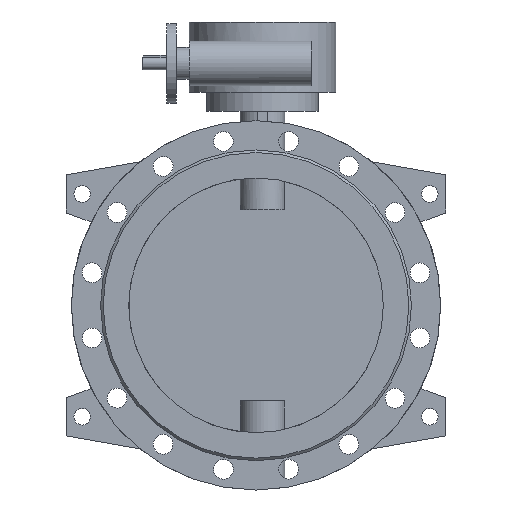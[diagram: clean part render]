
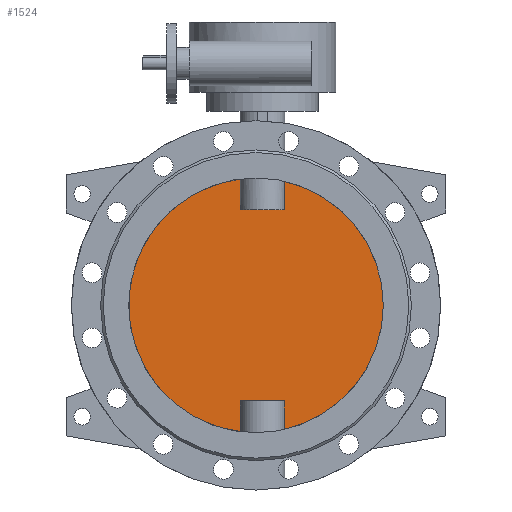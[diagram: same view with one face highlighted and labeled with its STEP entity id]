
A CAD part, front view. The second image highlights one B-rep face of the part: STEP entity #1524.
In plain terms, the highlighted planar face has unit normal (0, -1, 0).
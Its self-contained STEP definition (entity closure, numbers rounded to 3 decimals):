
#1524=ADVANCED_FACE('',(#3148),#3150,.F.);
#3148=FACE_BOUND('',#3149,.T.);
#3149=EDGE_LOOP('',(#3978,#3979,#3980,#3981,#3982,#3983,#3984,#3985));
#3150=PLANE('',#3151);
#3151=AXIS2_PLACEMENT_3D('',#3152,#3153,#3154);
#3152=CARTESIAN_POINT('',(0.,-5.,0.));
#3153=DIRECTION('',(0.,1.,0.));
#3154=DIRECTION('',(1.,0.,0.));
#3978=ORIENTED_EDGE('',*,*,#4393,.T.);
#3979=ORIENTED_EDGE('',*,*,#4399,.T.);
#3980=ORIENTED_EDGE('',*,*,#4400,.T.);
#3981=ORIENTED_EDGE('',*,*,#4401,.T.);
#3982=ORIENTED_EDGE('',*,*,#4395,.T.);
#3983=ORIENTED_EDGE('',*,*,#4402,.T.);
#3984=ORIENTED_EDGE('',*,*,#4403,.T.);
#3985=ORIENTED_EDGE('',*,*,#4404,.T.);
#4393=EDGE_CURVE('',#5065,#5066,#5067,.F.);
#4395=EDGE_CURVE('',#5070,#5068,#5071,.F.);
#4399=EDGE_CURVE('',#5066,#5077,#5078,.T.);
#4400=EDGE_CURVE('',#5077,#5079,#5080,.F.);
#4401=EDGE_CURVE('',#5079,#5070,#5081,.F.);
#4402=EDGE_CURVE('',#5068,#5082,#5083,.F.);
#4403=EDGE_CURVE('',#5082,#5084,#5085,.F.);
#4404=EDGE_CURVE('',#5084,#5065,#5086,.T.);
#5065=VERTEX_POINT('',#7519);
#5066=VERTEX_POINT('',#7520);
#5067=CIRCLE('',#7521,200.);
#5068=VERTEX_POINT('',#7525);
#5070=VERTEX_POINT('',#7588);
#5071=CIRCLE('',#7589,200.);
#5077=VERTEX_POINT('',#7716);
#5078=LINE('',#7717,#7718);
#5079=VERTEX_POINT('',#7720);
#5080=LINE('',#7721,#7722);
#5081=LINE('',#7724,#7725);
#5082=VERTEX_POINT('',#7727);
#5083=LINE('',#7728,#7729);
#5084=VERTEX_POINT('',#7731);
#5085=LINE('',#7732,#7733);
#5086=LINE('',#7735,#7736);
#7519=CARTESIAN_POINT('',(44.641,-5.,-194.954));
#7520=CARTESIAN_POINT('',(44.641,-5.,194.954));
#7521=AXIS2_PLACEMENT_3D('',#7522,#7523,#7524);
#7522=CARTESIAN_POINT('',(0.,-5.,0.));
#7523=DIRECTION('',(0.,1.,0.));
#7524=DIRECTION('',(0.223,0.,0.975));
#7525=CARTESIAN_POINT('',(-24.641,-5.,-198.476));
#7588=CARTESIAN_POINT('',(-24.641,-5.,198.476));
#7589=AXIS2_PLACEMENT_3D('',#7590,#7591,#7592);
#7590=CARTESIAN_POINT('',(0.,-5.,0.));
#7591=DIRECTION('',(0.,1.,0.));
#7592=DIRECTION('',(-0.123,0.,-0.992));
#7716=CARTESIAN_POINT('',(44.641,-5.,150.));
#7717=CARTESIAN_POINT('',(44.641,-5.,194.954));
#7718=VECTOR('',#7719,1.);
#7719=DIRECTION('',(0.,0.,-1.));
#7720=CARTESIAN_POINT('',(-24.641,-5.,150.));
#7721=CARTESIAN_POINT('',(-24.641,-5.,150.));
#7722=VECTOR('',#7723,1.);
#7723=DIRECTION('',(1.,0.,0.));
#7724=CARTESIAN_POINT('',(-24.641,-5.,198.476));
#7725=VECTOR('',#7726,1.);
#7726=DIRECTION('',(0.,0.,-1.));
#7727=CARTESIAN_POINT('',(-24.641,-5.,-150.));
#7728=CARTESIAN_POINT('',(-24.641,-5.,-150.));
#7729=VECTOR('',#7730,1.);
#7730=DIRECTION('',(0.,0.,-1.));
#7731=CARTESIAN_POINT('',(44.641,-5.,-150.));
#7732=CARTESIAN_POINT('',(44.641,-5.,-150.));
#7733=VECTOR('',#7734,1.);
#7734=DIRECTION('',(-1.,0.,0.));
#7735=CARTESIAN_POINT('',(44.641,-5.,-150.));
#7736=VECTOR('',#7737,1.);
#7737=DIRECTION('',(0.,0.,-1.));
